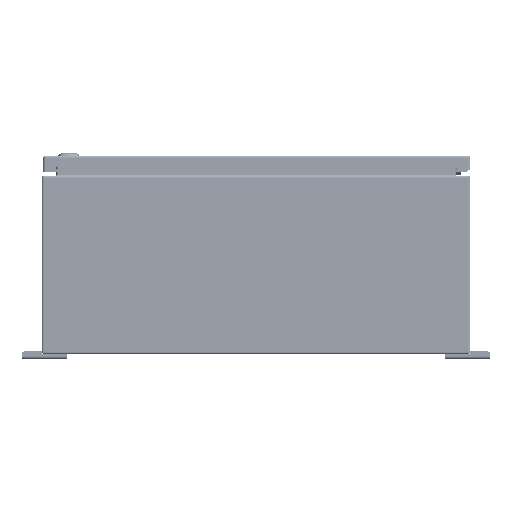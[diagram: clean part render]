
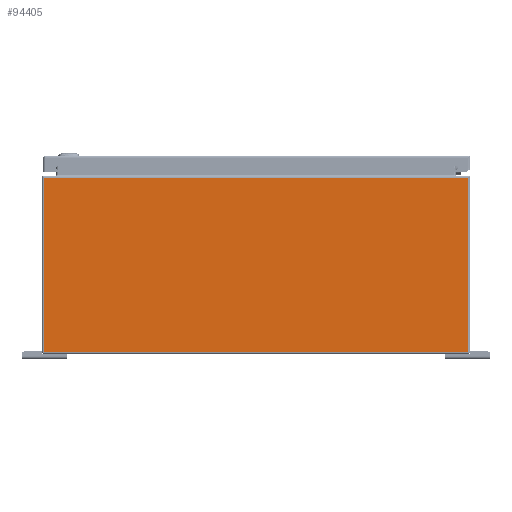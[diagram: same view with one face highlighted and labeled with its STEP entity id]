
A CAD part, left-side view. The second image highlights one B-rep face of the part: STEP entity #94405.
In plain terms, the highlighted planar face has unit normal (-1, 0, 0).
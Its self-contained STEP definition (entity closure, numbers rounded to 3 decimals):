
#5480=PLANE('',#101314);
#7929=LINE('',#135043,#15330);
#7930=LINE('',#135047,#15331);
#7931=LINE('',#135049,#15332);
#7932=LINE('',#135051,#15333);
#7933=LINE('',#135053,#15334);
#7934=LINE('',#135054,#15335);
#15330=VECTOR('',#110206,0.394);
#15331=VECTOR('',#110211,0.394);
#15332=VECTOR('',#110212,0.394);
#15333=VECTOR('',#110213,0.394);
#15334=VECTOR('',#110214,0.394);
#15335=VECTOR('',#110215,0.394);
#24213=FACE_OUTER_BOUND('',#29888,.T.);
#29888=EDGE_LOOP('',(#64113,#64114,#64115,#64116,#64117,#64118));
#39918=VERTEX_POINT('',#135025);
#39925=VERTEX_POINT('',#135042);
#39926=VERTEX_POINT('',#135046);
#39927=VERTEX_POINT('',#135048);
#39928=VERTEX_POINT('',#135050);
#39929=VERTEX_POINT('',#135052);
#49321=EDGE_CURVE('',#39918,#39925,#7929,.T.);
#49323=EDGE_CURVE('',#39926,#39918,#7930,.T.);
#49324=EDGE_CURVE('',#39926,#39927,#7931,.T.);
#49325=EDGE_CURVE('',#39928,#39927,#7932,.T.);
#49326=EDGE_CURVE('',#39929,#39928,#7933,.T.);
#49327=EDGE_CURVE('',#39929,#39925,#7934,.T.);
#64113=ORIENTED_EDGE('',*,*,#49323,.F.);
#64114=ORIENTED_EDGE('',*,*,#49324,.T.);
#64115=ORIENTED_EDGE('',*,*,#49325,.F.);
#64116=ORIENTED_EDGE('',*,*,#49326,.F.);
#64117=ORIENTED_EDGE('',*,*,#49327,.T.);
#64118=ORIENTED_EDGE('',*,*,#49321,.F.);
#94405=ADVANCED_FACE('',(#24213),#5480,.F.);
#101314=AXIS2_PLACEMENT_3D('',#135045,#110209,#110210);
#110206=DIRECTION('',(0.,0.,-1.));
#110209=DIRECTION('center_axis',(1.,0.,0.));
#110210=DIRECTION('ref_axis',(0.,0.,-1.));
#110211=DIRECTION('',(0.,-1.,0.));
#110212=DIRECTION('',(0.,1.,0.));
#110213=DIRECTION('',(0.,-1.,0.));
#110214=DIRECTION('',(0.,0.,1.));
#110215=DIRECTION('',(0.,-1.,0.));
#135025=CARTESIAN_POINT('',(-21.,-11.901,9.901));
#135042=CARTESIAN_POINT('',(-21.,-11.901,0.099));
#135043=CARTESIAN_POINT('',(-21.,-11.901,5.));
#135045=CARTESIAN_POINT('Origin',(-21.,0.,5.));
#135046=CARTESIAN_POINT('',(-21.,-11.126,9.901));
#135047=CARTESIAN_POINT('',(-21.,-5.975,9.901));
#135048=CARTESIAN_POINT('',(-21.,11.126,9.901));
#135049=CARTESIAN_POINT('',(-21.,5.955,9.901));
#135050=CARTESIAN_POINT('',(-21.,11.901,9.901));
#135051=CARTESIAN_POINT('',(-21.,-5.975,9.901));
#135052=CARTESIAN_POINT('',(-21.,11.901,0.099));
#135053=CARTESIAN_POINT('',(-21.,11.901,5.));
#135054=CARTESIAN_POINT('',(-21.,6.,0.099));
